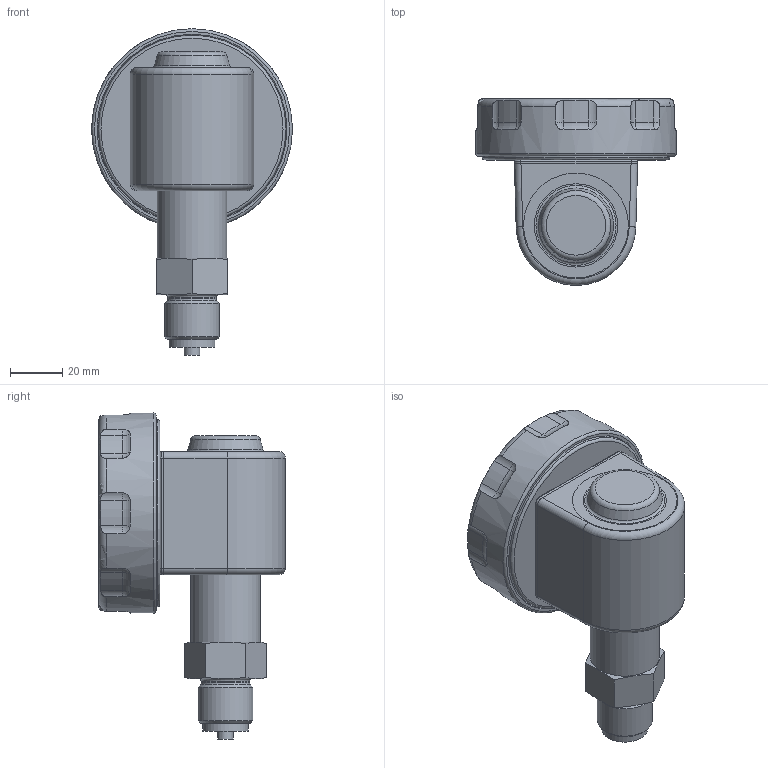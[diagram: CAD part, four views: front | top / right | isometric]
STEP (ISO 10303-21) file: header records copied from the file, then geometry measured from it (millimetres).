
FILE_DESCRIPTION(/* description */ (''),/* implementation_level */ '2;1');
FILE_NAME(/* name */ 'C:\Users\cz1231\Documents\modely ve step\BAROLO DM02, G12.stp',/* time_stamp */ '2015-12-03T09:43:56+01:00',/* author */ ('CZ1231'),/* organization */ (''),/* preprocessor_version */ 'ST-DEVELOPER v15.2',/* originating_system */ 'Autodesk Inventor 2014',/* authorisation */ '');
FILE_SCHEMA (('AUTOMOTIVE_DESIGN { 1 0 10303 214 3 1 1 }'));
Length unit declared in the file: millimetre
Products named in the file (1): BAROLO DM02, G12
Bounding box: 76.5 x 71.25 x 124.47 mm (x, y, z)
Volume: 259584.3 mm3; surface area: 82629.9 mm2
Topology: 12 solids, 12 shells, 531 faces, 1362 edges, 870 vertices
Faces by surface type: plane 237, cylinder 179, torus 46, sphere 32, cone 29, bspline 8
Full cylindrical faces by diameter (mm): 2 x1, 2.5 x4, 4 x2, 6 x1, 17.5 x1, 18.4 x1, 18.8 x1, 20.4 x2, 20.955 x1, 26.5 x1, 28.4 x1, 30.3 x1, 31.8 x2, 32 x2, 34 x1, 34.1 x1, 35 x1, 40 x3, 63.5 x1, 69 x1, 71.5 x3, 76.5 x1
Entity records: 17452 total; most frequent: CARTESIAN_POINT 4272, DIRECTION 2652, ORIENTED_EDGE 2532, EDGE_CURVE 1266, AXIS2_PLACEMENT_3D 994, VERTEX_POINT 860, LINE 664, VECTOR 664
